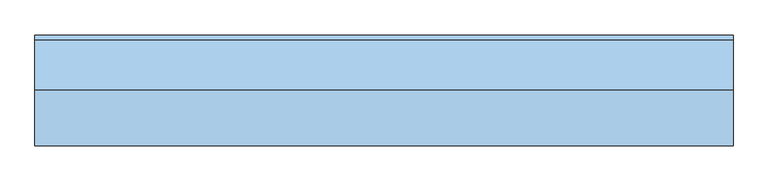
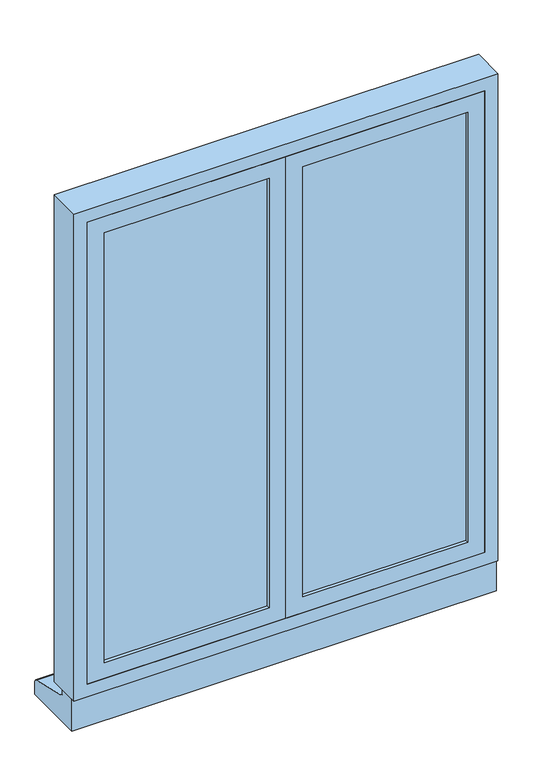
"""IFC4 building model written with IfcOpenShell, lengths in millimetres: window geometry, PF Rect. 2 vantaux : 120*150."""

from ifc_helpers import new_model, si_unit, point, frame, frame_2d, origin, place, context, project, spatial, polyline, circle_curve, trimmed, segment, composite_curve, outline, extrude, faceted_brep, source, transform, mapped, element, save


def window_3bf98e3c(model_context):
    return source(origin(), model_context, "Body", "SolidModel", [
        faceted_brep([(630.0, -75.0, 1530.0), (-630.0, -75.0, 1530.0), (-630.0, -75.0, 0.0), (630.0, -75.0, 0.0), (590.0, -75.0, 1490.0), (590.0, -75.0, 40.0), (-590.0, -75.0, 40.0), (-590.0, -75.0, 1490.0), (590.0, 25.0, 0.0), (590.0, 25.0, 1490.0), (-590.0, 25.0, 1490.0), (-590.0, 25.0, 0.0), (-630.0, 25.0, 0.0), (-630.0, 25.0, 1530.0), (630.0, 25.0, 1530.0), (630.0, 25.0, 0.0), (-590.0, -5.0, 0.0), (590.0, -5.0, 0.0), (-590.0, -5.0, 40.0), (590.0, -5.0, 40.0)], [[[0, 1, 2, 3], [4, 5, 6, 7]], [[8, 9, 10, 11, 12, 13, 14, 15]], [[3, 2, 12, 11, 16, 17, 8, 15]], [[3, 15, 14, 0]], [[1, 0, 14, 13]], [[13, 12, 2, 1]], [[11, 10, 7, 6, 18, 16]], [[4, 7, 10, 9]], [[9, 8, 17, 19, 5, 4]], [[6, 5, 19, 18]], [[17, 16, 18, 19]]]),
        extrude(outline(composite_curve([segment(polyline([(-65.0, 0.0), (-15.0, 0.0), (-15.0, -11.0091039)]), True, "CONTINUOUS"), segment(trimmed(circle_curve(frame_2d((-5.0, -11.0091039)), 10.0), [point((-15.0, -11.0091039))], [point((-6.0597318, -20.9527938))], True, "CARTESIAN"), True, "CONTINUOUS"), segment(polyline([(-6.0597318, -20.9527938), (116.0597318, -49.9534609)]), True, "CONTINUOUS"), segment(trimmed(circle_curve(frame_2d((115.0, -59.8971508)), 10.0), [point((116.0597318, -49.9534609))], [point((125.0, -59.8971508))], False, "CARTESIAN"), True, "CONTINUOUS"), segment(polyline([(125.0, -59.8971508), (125.0, -100.0), (-65.0, -100.0), (-65.0, 0.0)]), True, "CONTINUOUS")], self_intersect=False)), frame((-630.0, 0.0, 0.0), z_axis=(1.0, 0.0, 0.0), x_axis=(0.0, 1.0, 0.0)), (0.0, 0.0, 1.0), 1260.0),
        extrude(outline(polyline([(-50.0, -65.0), (-540.0, -65.0), (-540.0, -45.0), (-50.0, -45.0), (-50.0, -65.0)])), frame((0.0, 0.0, 90.0), z_axis=(0.0, 0.0, 1.0), x_axis=(1.0, 0.0, 0.0)), (0.0, 0.0, 1.0), 1350.0),
        extrude(outline(polyline([(540.0, -65.0), (50.0, -65.0), (50.0, -45.0), (540.0, -45.0), (540.0, -65.0)])), frame((0.0, 0.0, 90.0), z_axis=(0.0, 0.0, 1.0), x_axis=(1.0, 0.0, 0.0)), (0.0, 0.0, 1.0), 1350.0),
        extrude(outline(polyline([(1490.0, 590.0), (1490.0, 0.0), (40.0, 0.0), (40.0, 590.0), (1490.0, 590.0)]), holes=[polyline([(1440.0, 540.0), (90.0, 540.0), (90.0, 50.0), (1440.0, 50.0), (1440.0, 540.0)])]), frame((0.0, -75.0, 0.0), z_axis=(0.0, 1.0, 0.0), x_axis=(0.0, 0.0, 1.0)), (0.0, 0.0, 1.0), 50.0),
        extrude(outline(polyline([(1490.0, 0.0), (1490.0, -590.0), (40.0, -590.0), (40.0, 0.0), (1490.0, 0.0)]), holes=[polyline([(1440.0, -50.0), (90.0, -50.0), (90.0, -540.0), (1440.0, -540.0), (1440.0, -50.0)])]), frame((0.0, -75.0, 0.0), z_axis=(0.0, 1.0, 0.0), x_axis=(0.0, 0.0, 1.0)), (0.0, 0.0, 1.0), 50.0),
    ])


if __name__ == "__main__":
    model = new_model("IFC4")
    model_context = context("Model", 3, world=origin())
    ifc_project = project(units=[si_unit("LENGTHUNIT", "METRE", prefix="MILLI")], contexts=[model_context])
    site = spatial("IfcSite", under=ifc_project)
    building = spatial("IfcBuilding", under=site)
    placement = place(None, origin())
    window_shape = window_3bf98e3c(model_context)
    element("IfcWindow", 1, ObjectType="PF Rect. 2 vantaux : 120*150", at=placement, inside=building, context=model_context, shape_type="MappedRepresentation", body=[
        mapped(window_shape, transform((0.0, 0.0, 0.0), x_axis=(1.0, 0.0, 0.0), y_axis=(0.0, 1.0, 0.0), z_axis=(0.0, 0.0, 1.0))),
    ])
    save(model, "model.ifc")
